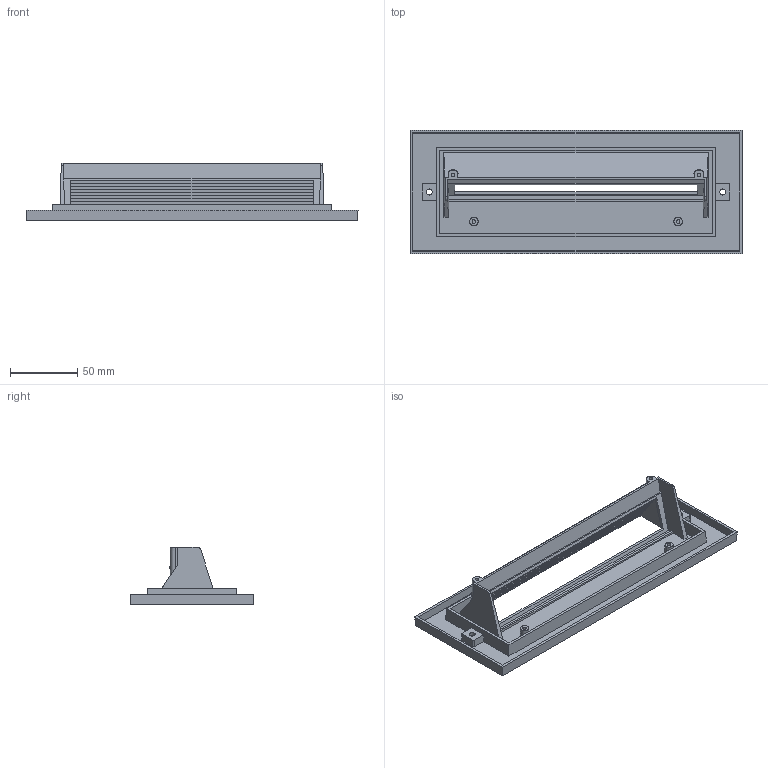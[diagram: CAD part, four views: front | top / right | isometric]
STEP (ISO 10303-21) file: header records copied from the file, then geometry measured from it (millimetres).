
FILE_DESCRIPTION (( 'STEP AP203' ), '1' );
FILE_NAME ('ER7110.STEP', '2023-08-04T15:27:50', ( '' ), ( '' ), 'SwSTEP 2.0', 'SolidWorks 2018', '' );
FILE_SCHEMA (( 'CONFIG_CONTROL_DESIGN' ));
Length unit declared in the file: millimetre
Products named in the file (1): ER7110
Bounding box: 247 x 92 x 43 mm (x, y, z)
Volume: 86890.5 mm3; surface area: 84146.2 mm2
Topology: 1 solids, 1 shells, 121 faces, 321 edges, 214 vertices
Faces by surface type: plane 93, cylinder 22, cone 6
Entity records: 3812 total; most frequent: CARTESIAN_POINT 705, ORIENTED_EDGE 642, DIRECTION 593, EDGE_CURVE 321, VECTOR 265, LINE 265, VERTEX_POINT 214, AXIS2_PLACEMENT_3D 164
